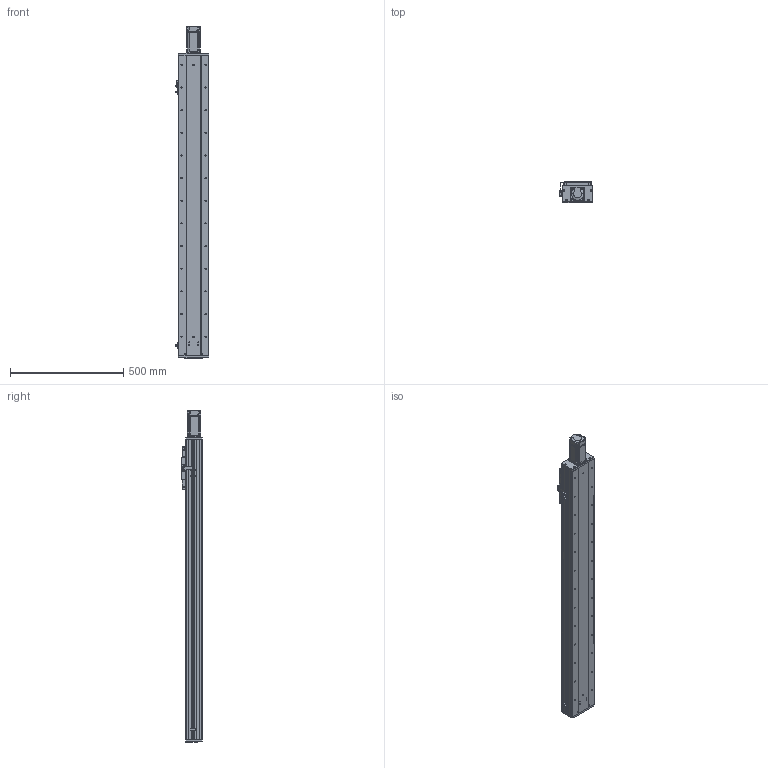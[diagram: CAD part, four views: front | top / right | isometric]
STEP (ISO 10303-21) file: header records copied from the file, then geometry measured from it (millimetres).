
FILE_DESCRIPTION (( 'STEP AP203' ), '1' );
FILE_NAME ('RY140F-L2020-300-MK.SLDASM_1050.step', '2021-03-02T06:24:28', ( '盈信电脑' ), ( '东莞市道滘镇水果街19号' ), 'SwSTEP 2.0', 'SolidWorks 2012', '' );
FILE_SCHEMA (( 'CONFIG_CONTROL_DESIGN' ));
Length unit declared in the file: millimetre
Products named in the file (18): RY140F-L2020-300-MK.SLDASM_1050; 侐源滅袉蝶; 滅袉蝶18-10; 覜茼ん672; RY140F-詩湍揤え; RY140F-672覜茼んえ; 侂狟400W侜督萇儂; 15; RY140F-直连前盖板(铝件）; RY140F-后盖板(铝件）; RY140F-直连型材铝滑块(16丝杆); RY140F-滅鳥奻裔; RY100F-詩湍揤踡謫; RY140F-詩湍幗謫粣; RY140F-300-MK眻蟀倰第菁釱_1050; RY140F-300-MK眻蟀倰第奻裔啣_1050; RY140F-300-MK眻蟀詩湍_1050; RY140F-直连型材铝滑块连接座
Assembly tree (22 placements, depth 3):
  RY140F-L2020-300-MK.SLDASM_1050
    RY140F-300-MK眻蟀倰第菁釱_1050
    RY140F-300-MK眻蟀倰第奻裔啣_1050  x2
    RY140F-300-MK眻蟀詩湍_1050
    RY140F-直连型材铝滑块连接座
    RY140F-滅鳥奻裔
    RY140F-詩湍幗謫粣
    RY100F-詩湍揤踡謫
    RY140F-直连型材铝滑块(16丝杆)
    RY140F-直连前盖板(铝件）
    RY140F-后盖板(铝件）
    侂狟400W侜督萇儂
      15
    覜茼ん672  x3
    RY140F-672覜茼んえ
    RY140F-詩湍揤え  x2
    滅袉蝶18-10
    侐源滅袉蝶  x2
Bounding box: 148.7 x 91 x 1465.5 mm (x, y, z)
Volume: 4897139.3 mm3; surface area: 1707643.8 mm2
Topology: 21 solids, 21 shells, 2020 faces, 5549 edges, 3540 vertices
Faces by surface type: cylinder 930, plane 854, cone 214, bspline 18, torus 4
Entity records: 58522 total; most frequent: CARTESIAN_POINT 11673, DIRECTION 9596, ORIENTED_EDGE 9174, EDGE_CURVE 4587, AXIS2_PLACEMENT_3D 3451, VERTEX_POINT 3008, VECTOR 2694, LINE 2694
